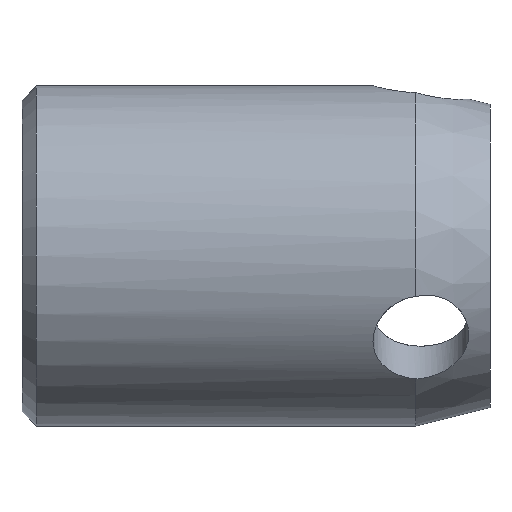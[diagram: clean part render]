
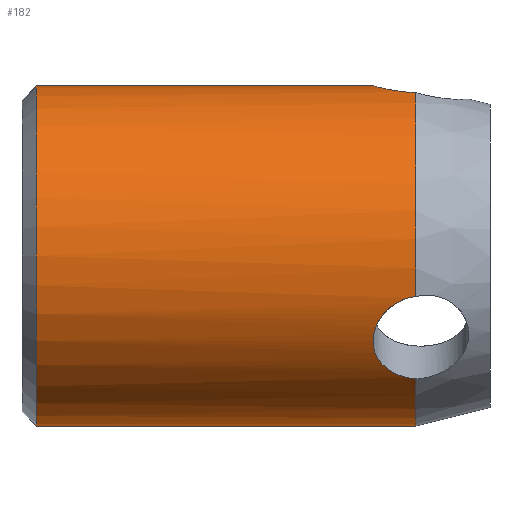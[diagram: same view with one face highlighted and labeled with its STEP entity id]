
A CAD part, front view. The second image highlights one B-rep face of the part: STEP entity #182.
In plain terms, the highlighted cylindrical face has radius 8 mm (diameter 16 mm), a partial arc.
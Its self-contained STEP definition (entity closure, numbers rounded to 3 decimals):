
#9 = CIRCLE ( 'NONE', #868, 8. ) ;
#12 = CARTESIAN_POINT ( 'NONE',  ( -5.437, -0.548, 7.982 ) ) ;
#16 = VERTEX_POINT ( 'NONE', #545 ) ;
#17 = CARTESIAN_POINT ( 'NONE',  ( -3.638, -5.546, -5.766 ) ) ;
#24 = CARTESIAN_POINT ( 'NONE',  ( -4.161, -2.062, 7.73 ) ) ;
#36 = CARTESIAN_POINT ( 'NONE',  ( -4.033, -2.114, 7.716 ) ) ;
#37 = CARTESIAN_POINT ( 'NONE',  ( -5.5, -6.998, -3.88 ) ) ;
#39 = EDGE_CURVE ( 'NONE', #264, #727, #484, .T. ) ;
#41 = CARTESIAN_POINT ( 'NONE',  ( -5.1, -7.483, -2.832 ) ) ;
#52 = CARTESIAN_POINT ( 'NONE',  ( -4.405, -7.69, -2.205 ) ) ;
#56 = CARTESIAN_POINT ( 'NONE',  ( -5.5, -6.928, -4. ) ) ;
#64 = CARTESIAN_POINT ( 'NONE',  ( -5.098, -6.193, -5.066 ) ) ;
#83 = CARTESIAN_POINT ( 'NONE',  ( -3.5, -7.77, -1.904 ) ) ;
#89 = LINE ( 'NONE', #652, #389 ) ;
#93 = CARTESIAN_POINT ( 'NONE',  ( -3.772, -5.567, -5.746 ) ) ;
#105 = CARTESIAN_POINT ( 'NONE',  ( -4.734, -1.697, 7.818 ) ) ;
#115 = CARTESIAN_POINT ( 'NONE',  ( -4.521, -7.669, -2.278 ) ) ;
#120 = B_SPLINE_CURVE_WITH_KNOTS ( 'NONE', 3,
 ( #1001, #17, #93, #426, #349, #123, #694, #540, #313, #299, #64, #787, #553, #462, #471, #951, #221, #126 ),
 .UNSPECIFIED., .F., .F.,
 ( 4, 2, 2, 2, 2, 2, 2, 2, 4 ),
 ( 0., 0., 0.001, 0.001, 0.002, 0.002, 0.002, 0.003, 0.003 ),
 .UNSPECIFIED. ) ;
#123 = CARTESIAN_POINT ( 'NONE',  ( -4.405, -5.755, -5.558 ) ) ;
#125 = AXIS2_PLACEMENT_3D ( 'NONE', #1006, #363, #759 ) ;
#126 = CARTESIAN_POINT ( 'NONE',  ( -5.5, -6.928, -4. ) ) ;
#153 = CARTESIAN_POINT ( 'NONE',  ( 21.562, 0., 0. ) ) ;
#155 = ORIENTED_EDGE ( 'NONE', *, *, #39, .T. ) ;
#182 = ADVANCED_FACE ( 'NONE', ( #873 ), #312, .T. ) ;
#190 = CARTESIAN_POINT ( 'NONE',  ( -5.399, -0.679, 7.972 ) ) ;
#195 = CARTESIAN_POINT ( 'NONE',  ( -5.5, -0.139, 8. ) ) ;
#210 = CARTESIAN_POINT ( 'NONE',  ( -3.5, -7.77, -1.904 ) ) ;
#220 = CARTESIAN_POINT ( 'NONE',  ( -5.437, -7.185, -3.52 ) ) ;
#221 = CARTESIAN_POINT ( 'NONE',  ( -5.5, -6.859, -4.12 ) ) ;
#223 = CARTESIAN_POINT ( 'NONE',  ( 21.562, 0., -8. ) ) ;
#258 = EDGE_CURVE ( 'NONE', #774, #1050, #89, .T. ) ;
#264 = VERTEX_POINT ( 'NONE', #790 ) ;
#268 = CARTESIAN_POINT ( 'NONE',  ( -5.302, -0.934, 7.946 ) ) ;
#279 = CARTESIAN_POINT ( 'NONE',  ( -21.325, 0., 0. ) ) ;
#289 = ORIENTED_EDGE ( 'NONE', *, *, #258, .F. ) ;
#293 = CARTESIAN_POINT ( 'NONE',  ( -5.241, -7.396, -3.051 ) ) ;
#299 = CARTESIAN_POINT ( 'NONE',  ( -5.017, -6.122, -5.151 ) ) ;
#312 = CYLINDRICAL_SURFACE ( 'NONE', #640, 8. ) ;
#313 = CARTESIAN_POINT ( 'NONE',  ( -4.835, -5.987, -5.307 ) ) ;
#336 = EDGE_CURVE ( 'NONE', #447, #1050, #969, .T. ) ;
#338 = VECTOR ( 'NONE', #801, 1000. ) ;
#341 = ORIENTED_EDGE ( 'NONE', *, *, #931, .T. ) ;
#349 = CARTESIAN_POINT ( 'NONE',  ( -4.161, -5.663, -5.651 ) ) ;
#363 = DIRECTION ( 'NONE',  ( 1., 0., 0. ) ) ;
#364 = CARTESIAN_POINT ( 'NONE',  ( -4.037, -7.739, -2.029 ) ) ;
#368 = EDGE_CURVE ( 'NONE', #447, #727, #717, .T. ) ;
#370 = ORIENTED_EDGE ( 'NONE', *, *, #608, .T. ) ;
#377 = CARTESIAN_POINT ( 'NONE',  ( -5.017, -7.522, -2.727 ) ) ;
#381 = ORIENTED_EDGE ( 'NONE', *, *, #368, .F. ) ;
#389 = VECTOR ( 'NONE', #871, 1000. ) ;
#402 = DIRECTION ( 'NONE',  ( 1., 0., 0. ) ) ;
#426 = CARTESIAN_POINT ( 'NONE',  ( -4.033, -5.625, -5.688 ) ) ;
#430 = VERTEX_POINT ( 'NONE', #612 ) ;
#433 = VERTEX_POINT ( 'NONE', #1019 ) ;
#436 = CARTESIAN_POINT ( 'NONE',  ( -3.5, -2.236, 7.681 ) ) ;
#445 = CARTESIAN_POINT ( 'NONE',  ( -4.835, -1.603, 7.839 ) ) ;
#446 = CARTESIAN_POINT ( 'NONE',  ( -4.163, -7.725, -2.08 ) ) ;
#447 = VERTEX_POINT ( 'NONE', #544 ) ;
#450 = CARTESIAN_POINT ( 'NONE',  ( -4.736, -7.619, -2.442 ) ) ;
#454 = CARTESIAN_POINT ( 'NONE',  ( -5.4, -7.243, -3.399 ) ) ;
#462 = CARTESIAN_POINT ( 'NONE',  ( -5.399, -6.565, -4.574 ) ) ;
#466 = CARTESIAN_POINT ( 'NONE',  ( -5.302, -7.349, -3.164 ) ) ;
#471 = CARTESIAN_POINT ( 'NONE',  ( -5.437, -6.639, -4.466 ) ) ;
#474 = AXIS2_PLACEMENT_3D ( 'NONE', #930, #1008, #760 ) ;
#478 = LINE ( 'NONE', #223, #338 ) ;
#484 = B_SPLINE_CURVE_WITH_KNOTS ( 'NONE', 3,
 ( #56, #37, #1017, #220, #454, #466, #293, #41, #377, #613, #450, #115, #52, #446, #364, #765, #687, #210 ),
 .UNSPECIFIED., .F., .F.,
 ( 4, 2, 2, 2, 2, 2, 2, 2, 4 ),
 ( 0.003, 0.004, 0.004, 0.005, 0.005, 0.005, 0.006, 0.006, 0.007 ),
 .UNSPECIFIED. ) ;
#508 = ORIENTED_EDGE ( 'NONE', *, *, #336, .T. ) ;
#516 = CARTESIAN_POINT ( 'NONE',  ( -5.487, -0.278, 7.996 ) ) ;
#520 = CARTESIAN_POINT ( 'NONE',  ( -5.5, 0., 8. ) ) ;
#540 = CARTESIAN_POINT ( 'NONE',  ( -4.734, -5.923, -5.379 ) ) ;
#544 = CARTESIAN_POINT ( 'NONE',  ( -3.5, -2.236, 7.681 ) ) ;
#545 = CARTESIAN_POINT ( 'NONE',  ( -3.5, -5.534, -5.777 ) ) ;
#553 = CARTESIAN_POINT ( 'NONE',  ( -5.302, -6.415, -4.782 ) ) ;
#569 = CARTESIAN_POINT ( 'NONE',  ( -21.325, 0., 8. ) ) ;
#608 = EDGE_CURVE ( 'NONE', #16, #264, #120, .T. ) ;
#612 = CARTESIAN_POINT ( 'NONE',  ( -21.325, 0., -8. ) ) ;
#613 = CARTESIAN_POINT ( 'NONE',  ( -4.835, -7.59, -2.532 ) ) ;
#633 = DIRECTION ( 'NONE',  ( 0., 0., -1. ) ) ;
#640 = AXIS2_PLACEMENT_3D ( 'NONE', #153, #402, #633 ) ;
#652 = CARTESIAN_POINT ( 'NONE',  ( 21.562, 0., 8. ) ) ;
#682 = CARTESIAN_POINT ( 'NONE',  ( -3.638, -2.221, 7.686 ) ) ;
#687 = CARTESIAN_POINT ( 'NONE',  ( -3.638, -7.766, -1.92 ) ) ;
#694 = CARTESIAN_POINT ( 'NONE',  ( -4.519, -5.807, -5.504 ) ) ;
#717 = CIRCLE ( 'NONE', #125, 8. ) ;
#723 = EDGE_CURVE ( 'NONE', #430, #433, #478, .T. ) ;
#727 = VERTEX_POINT ( 'NONE', #83 ) ;
#759 = DIRECTION ( 'NONE',  ( 0., 0., -1. ) ) ;
#760 = DIRECTION ( 'NONE',  ( 0., 0., -1. ) ) ;
#765 = CARTESIAN_POINT ( 'NONE',  ( -3.774, -7.759, -1.948 ) ) ;
#773 = DIRECTION ( 'NONE',  ( 1., 0., 0. ) ) ;
#774 = VERTEX_POINT ( 'NONE', #569 ) ;
#776 = ORIENTED_EDGE ( 'NONE', *, *, #925, .F. ) ;
#787 = CARTESIAN_POINT ( 'NONE',  ( -5.24, -6.339, -4.882 ) ) ;
#790 = CARTESIAN_POINT ( 'NONE',  ( -5.5, -6.928, -4. ) ) ;
#801 = DIRECTION ( 'NONE',  ( 1., 0., 0. ) ) ;
#820 = CARTESIAN_POINT ( 'NONE',  ( -4.405, -1.936, 7.762 ) ) ;
#829 = CARTESIAN_POINT ( 'NONE',  ( -5.098, -1.291, 7.896 ) ) ;
#835 = CARTESIAN_POINT ( 'NONE',  ( -4.519, -1.863, 7.781 ) ) ;
#839 = DIRECTION ( 'NONE',  ( 0., 0., 1. ) ) ;
#868 = AXIS2_PLACEMENT_3D ( 'NONE', #279, #773, #839 ) ;
#871 = DIRECTION ( 'NONE',  ( 1., 0., 0. ) ) ;
#873 = FACE_OUTER_BOUND ( 'NONE', #975, .T. ) ;
#885 = ORIENTED_EDGE ( 'NONE', *, *, #723, .T. ) ;
#896 = CARTESIAN_POINT ( 'NONE',  ( -5.5, 0., 8. ) ) ;
#922 = CIRCLE ( 'NONE', #474, 8. ) ;
#925 = EDGE_CURVE ( 'NONE', #16, #433, #922, .T. ) ;
#930 = CARTESIAN_POINT ( 'NONE',  ( -3.5, 0., 0. ) ) ;
#931 = EDGE_CURVE ( 'NONE', #774, #430, #9, .T. ) ;
#951 = CARTESIAN_POINT ( 'NONE',  ( -5.487, -6.786, -4.239 ) ) ;
#969 = B_SPLINE_CURVE_WITH_KNOTS ( 'NONE', 3,
 ( #436, #682, #985, #36, #24, #820, #835, #105, #445, #989, #829, #997, #268, #190, #12, #516, #195, #520 ),
 .UNSPECIFIED., .F., .F.,
 ( 4, 2, 2, 2, 2, 2, 2, 2, 4 ),
 ( 0., 0., 0.001, 0.001, 0.002, 0.002, 0.002, 0.003, 0.003 ),
 .UNSPECIFIED. ) ;
#975 = EDGE_LOOP ( 'NONE', ( #289, #341, #885, #776, #370, #155, #381, #508 ) ) ;
#985 = CARTESIAN_POINT ( 'NONE',  ( -3.772, -2.193, 7.694 ) ) ;
#989 = CARTESIAN_POINT ( 'NONE',  ( -5.017, -1.4, 7.877 ) ) ;
#997 = CARTESIAN_POINT ( 'NONE',  ( -5.24, -1.059, 7.931 ) ) ;
#1001 = CARTESIAN_POINT ( 'NONE',  ( -3.5, -5.534, -5.777 ) ) ;
#1006 = CARTESIAN_POINT ( 'NONE',  ( -3.5, 0., 0. ) ) ;
#1008 = DIRECTION ( 'NONE',  ( 1., 0., 0. ) ) ;
#1017 = CARTESIAN_POINT ( 'NONE',  ( -5.487, -7.063, -3.76 ) ) ;
#1019 = CARTESIAN_POINT ( 'NONE',  ( -3.5, 0., -8. ) ) ;
#1050 = VERTEX_POINT ( 'NONE', #896 ) ;
